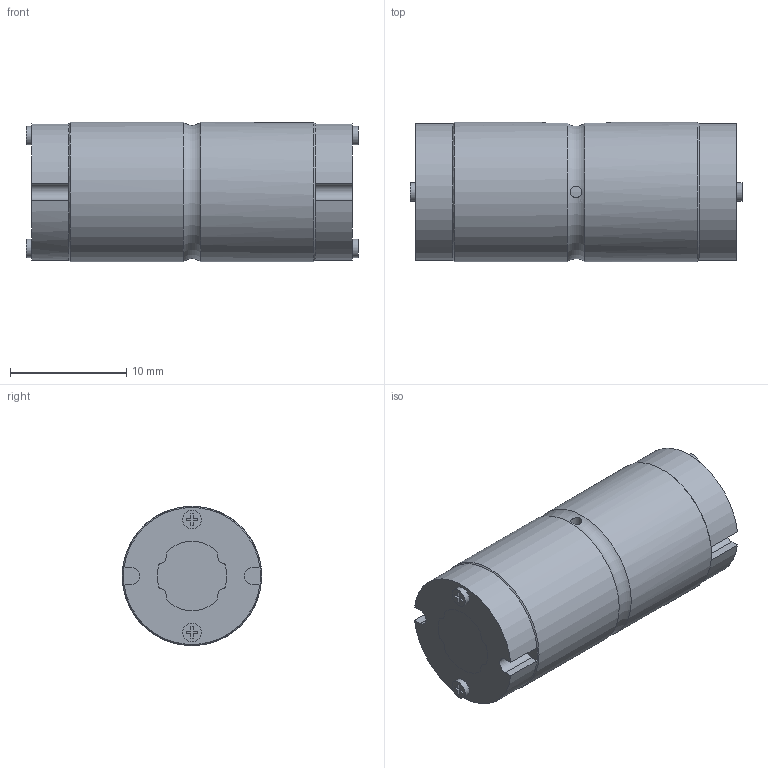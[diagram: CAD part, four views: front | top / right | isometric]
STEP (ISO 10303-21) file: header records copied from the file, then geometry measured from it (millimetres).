
FILE_DESCRIPTION(/* description */ ('STEP AP203'),/* implementation_level */ '2;1');
FILE_NAME(/* name */ 'LT6XL+27.6L(00)',/* time_stamp */ '2024-05-28T07:07:12+02:00',/* author */ ('License CC BY-ND 4.0'),/* organization */ ('CADENAS'),/* preprocessor_version */ 'ST-DEVELOPER v19.3',/* originating_system */ 'PARTsolutions',/* authorisation */ ' ');
FILE_SCHEMA (('CONFIG_CONTROL_DESIGN'));
Length unit declared in the file: millimetre
Products named in the file (3): LT6XL+27.6L(00); 1LT6XL 27.6Shaft; 1LT6XL Cylindar
Assembly tree (2 placements, depth 2):
  LT6XL+27.6L(00)
    1LT6XL 27.6Shaft
    1LT6XL Cylindar
Bounding box: 28.6 x 12 x 12 mm (x, y, z)
Volume: 3052.6 mm3; surface area: 2391.8 mm2
Topology: 2 solids, 2 shells, 136 faces, 366 edges, 242 vertices
Faces by surface type: plane 83, cylinder 50, cone 2, torus 1
Full cylindrical faces by diameter (mm): 1 x2, 1.6 x4, 12 x2
Entity records: 4269 total; most frequent: CARTESIAN_POINT 781, DIRECTION 716, ORIENTED_EDGE 696, EDGE_CURVE 348, LINE 242, VECTOR 242, AXIS2_PLACEMENT_3D 237, VERTEX_POINT 234
